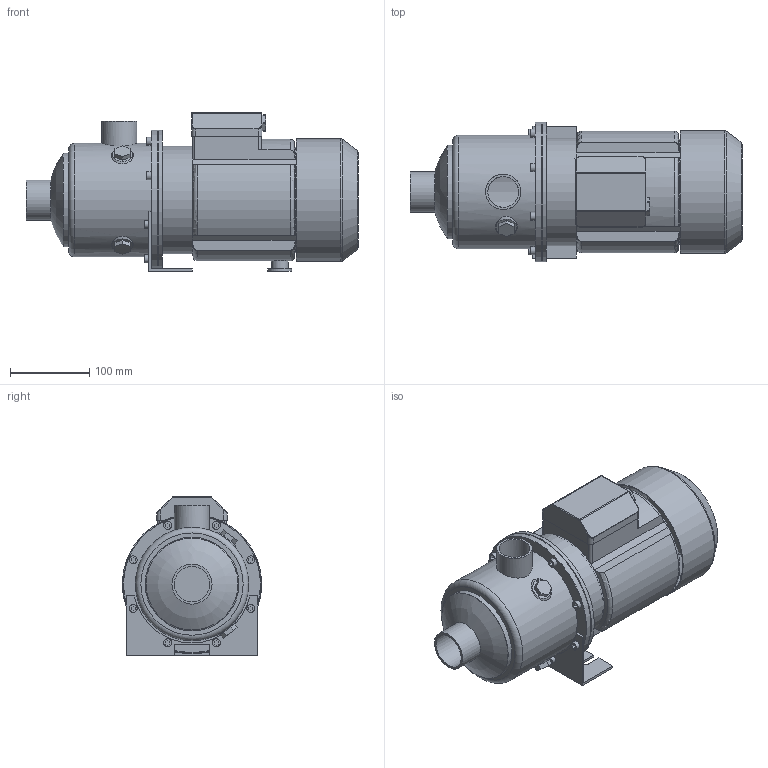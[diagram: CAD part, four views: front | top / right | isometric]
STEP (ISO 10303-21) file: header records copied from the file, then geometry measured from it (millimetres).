
FILE_DESCRIPTION(/* description */ ('Unknown'),/* implementation_level */ '2;1');
FILE_NAME(/* name */ 'MH 9 [3] T',/* time_stamp */ '2026-07-10T15:04:24+02:00',/* author */ ('Unknown'),/* organization */ ('Unknown'),/* preprocessor_version */ 'ST-DEVELOPER v20',/* originating_system */ 'Solid Edge',/* authorisation */ 'Unknown');
FILE_SCHEMA (('AUTOMOTIVE_DESIGN {1 0 10303 214 3 1 1}'));
Length unit declared in the file: millimetre
Products named in the file (10): MH 9 [3] T; Flangia motore Tonda M80; Corpo MH 9 [2-3]; Mot_Wendy_MEC80_11-15_T; carcassa MEC 80-Wendy; Copriventola MEC 80-Wendy; Basetta MEC 80 T-Wendy_new; Piedino MEC 80 int.90; Staffa 3-5-9 int.90
Assembly tree (8 placements, depth 3):
  MH 9 [3] T
    Flangia motore Tonda M80
    Corpo MH 9 [2-3]
    Mot_Wendy_MEC80_11-15_T
      carcassa MEC 80-Wendy
      Copriventola MEC 80-Wendy
      Basetta MEC 80 T-Wendy_new
    Piedino MEC 80 int.90
    Staffa 3-5-9 int.90
  (unnamed)
Bounding box: 420.1 x 176.5 x 200.5 mm (x, y, z)
Volume: 2044212.4 mm3; surface area: 542140.6 mm2
Topology: 8 solids, 8 shells, 276 faces, 647 edges, 429 vertices
Faces by surface type: plane 163, cylinder 74, torus 19, cone 14, bspline 4, sphere 2
Full cylindrical faces by diameter (mm): 7 x4, 10 x9, 13.5 x1, 17.5 x1, 21 x1, 30 x1, 38.952 x1, 44.5 x1, 44.845 x1, 50.8 x1, 116.1 x1, 118.5 x1, 125 x1, 130 x3, 134 x1, 136 x1, 141.1 x1, 143.5 x1, 153.5 x1, 155.5 x1, 173.5 x1, 174.1 x1, 176.5 x2
Entity records: 8882 total; most frequent: CARTESIAN_POINT 1617, DIRECTION 1262, ORIENTED_EDGE 1118, EDGE_CURVE 559, AXIS2_PLACEMENT_3D 461, VERTEX_POINT 398, EDGE_LOOP 385, FACE_BOUND 385
